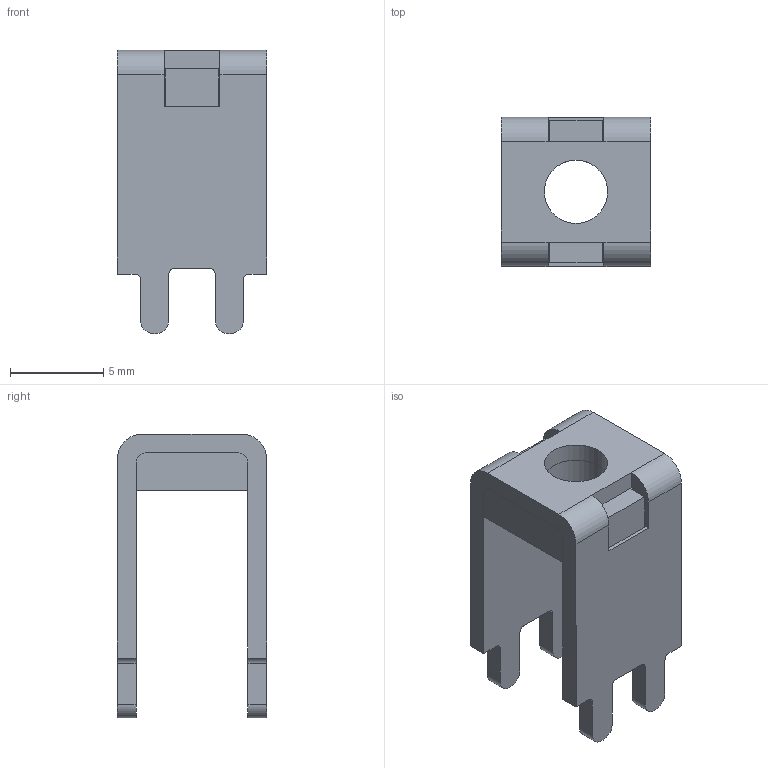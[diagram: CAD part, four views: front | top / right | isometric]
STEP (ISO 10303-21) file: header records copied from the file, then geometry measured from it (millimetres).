
FILE_DESCRIPTION(/* description */ (''),/* implementation_level */ '2;1');
FILE_NAME(/* name */ '8.0x8.0料厚1.0 带铁板高12mm，中心距4.0脚长3.2mm_stp.stp',/* time_stamp */ '2025-06-26T19:50:57+08:00',/* author */ (''),/* organization */ (''),/* preprocessor_version */ 'ST-DEVELOPER v16',/* originating_system */ 'SIEMENS PLM Software NX 10.0',/* authorisation */ '');
FILE_SCHEMA (('AP203_CONFIGURATION_CONTROLLED_3D_DESIGN_OF_MECHANICAL_PARTS_AND_ASSEMBLIES_MIM_LF { 1 0 10303 403 2 1 2}'));
Length unit declared in the file: millimetre
Products named in the file (1): Admi2ABC7C88fx6j
Bounding box: 8 x 8 x 15.2 mm (x, y, z)
Volume: 311.3 mm3; surface area: 749.7 mm2
Topology: 2 solids, 2 shells, 78 faces, 231 edges, 153 vertices
Faces by surface type: plane 48, cylinder 30
Full cylindrical faces by diameter (mm): 3.4 x2
Entity records: 2698 total; most frequent: CARTESIAN_POINT 459, ORIENTED_EDGE 456, DIRECTION 446, EDGE_CURVE 228, LINE 168, VECTOR 168, VERTEX_POINT 152, AXIS2_PLACEMENT_3D 139
